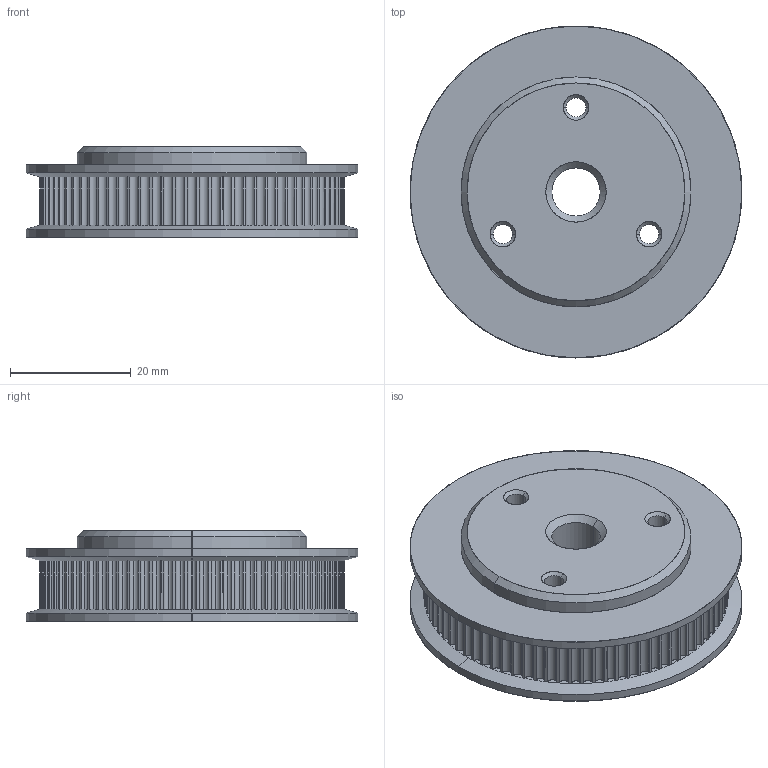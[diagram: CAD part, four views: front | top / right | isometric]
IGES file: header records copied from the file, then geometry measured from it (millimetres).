
Start section: SolidWorks IGES file using analytic representation for surfaces
Global section: file name: D:\EN COURS PROF\Boitier Gigapixels - SW2016 Prof\Poulie GT2 80 dents.IGS; native system: SolidWorks 2016; preprocessor: SolidWorks 2016; author: miche; date: 190411.113814; units: millimetre
Bounding box: 55 x 55 x 15 mm (x, y, z)
Surface area: 8883 mm2 (no closed solid volume)
Topology: 0 solids, 0 shells, 558 faces, 4380 edges, 4380 vertices
Faces by surface type: revolution 395, bspline 163
